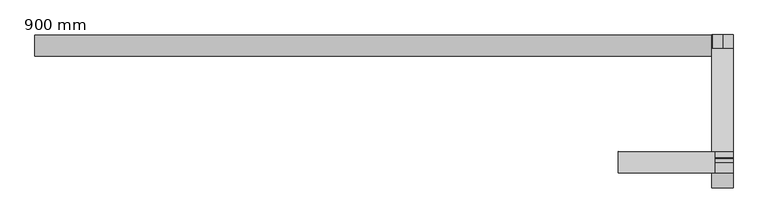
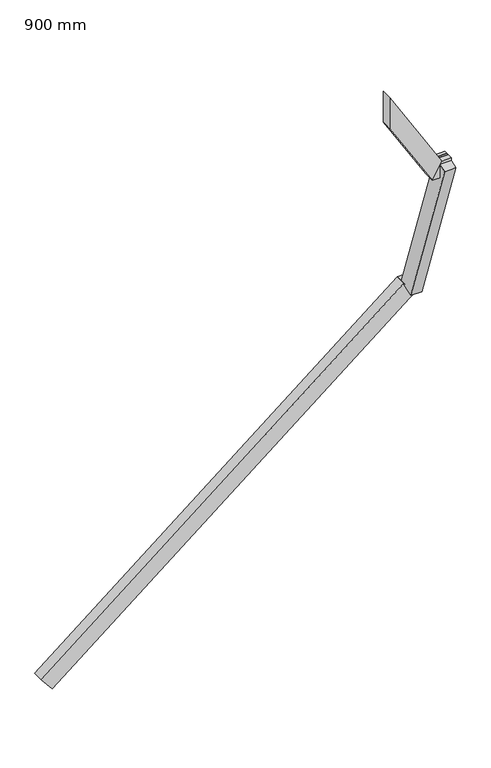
"""IFC4 building model written with IfcOpenShell, lengths in millimetres: railing geometry, 900 mm."""

from ifc_helpers import new_model, si_unit, origin, place, context, project, spatial, faceted_brep, source, transform, mapped, element, save


def railing_900_mm_8258545f(model_context):
    return source(origin(), model_context, "Body", "Brep", [
        faceted_brep([(-1180.0228675, -2082.4888028, 1057.5), (-1132.2055672, -2082.4888028, 998.1708689), (-1132.2055672, -2133.2888028, 998.1708689), (-1180.0228675, -2133.2888028, 1057.5), (445.6226895, -2082.4888028, 2367.7160807), (445.6226895, -2133.2888028, 2367.7160807), (493.4399897, -2133.2888028, 2308.3869496), (493.4399897, -2082.4888028, 2308.3869496)], [[[0, 1, 2, 3]], [[4, 5, 6, 7]], [[1, 0, 4, 7]], [[2, 1, 7, 6]], [[3, 2, 6, 5]], [[0, 3, 5, 4]]]),
        faceted_brep([(445.6226895, -2082.4888028, 2367.7160807), (445.6226895, -2082.4888028, 2291.5160807), (445.6226895, -2133.2888028, 2291.5160807), (445.6226895, -2133.2888028, 2367.7160807), (470.3771325, -2082.4888028, 2367.7160807), (470.3771325, -2133.2888028, 2367.7160807), (470.3771325, -2133.2888028, 2291.5160807), (470.3771325, -2082.4888028, 2291.5160807)], [[[0, 1, 2, 3]], [[4, 5, 6, 7]], [[1, 0, 4, 7]], [[2, 1, 7, 6]], [[3, 2, 6, 5]], [[0, 3, 5, 4]]]),
        faceted_brep([(495.7771325, -2082.4888028, 2367.7160807), (495.7771325, -2082.4888028, 2291.5160807), (444.9771325, -2082.4888028, 2291.5160807), (444.9771325, -2082.4888028, 2367.7160807), (495.7771325, -2114.9404347, 2367.7160807), (444.9771325, -2114.9404347, 2367.7160807), (444.9771325, -2114.9404347, 2291.5160807), (495.7771325, -2114.9404347, 2291.5160807)], [[[0, 1, 2, 3]], [[4, 5, 6, 7]], [[1, 0, 4, 7]], [[2, 1, 7, 6]], [[3, 2, 6, 5]], [[0, 3, 5, 4]]]),
        faceted_brep([(495.7771325, -2114.9404347, 2367.7160807), (495.7771325, -2186.7849753, 2342.3231292), (444.9771325, -2186.7849753, 2342.3231292), (444.9771325, -2114.9404347, 2367.7160807), (495.7771325, -2378.5414704, 3113.5252218), (444.9771325, -2378.5414704, 3113.5252218), (444.9771325, -2450.386011, 3088.1322704), (495.7771325, -2450.386011, 3088.1322704)], [[[0, 1, 2, 3]], [[4, 5, 6, 7]], [[1, 0, 4, 7]], [[2, 1, 7, 6]], [[3, 2, 6, 5]], [[0, 3, 5, 4]]]),
        faceted_brep([(495.7771325, -2378.5414704, 3113.5252218), (495.7771325, -2378.5414704, 3037.3252218), (444.9771325, -2378.5414704, 3037.3252218), (444.9771325, -2378.5414704, 3113.5252218), (495.7771325, -2388.8717953, 3113.5252218), (444.9771325, -2388.8717953, 3113.5252218), (444.9771325, -2388.8717953, 3037.3252218), (495.7771325, -2388.8717953, 3037.3252218)], [[[0, 1, 2, 3]], [[4, 5, 6, 7]], [[1, 0, 4, 7]], [[2, 1, 7, 6]], [[3, 2, 6, 5]], [[0, 3, 5, 4]]]),
        faceted_brep([(495.7771325, -2414.2717953, 3113.5252218), (495.7771325, -2414.2717953, 3037.3252218), (495.7771325, -2363.4717953, 3037.3252218), (495.7771325, -2363.4717953, 3113.5252218), (452.5573837, -2414.2717953, 3113.5252218), (409.7698106, -2414.2717953, 3037.3252218), (409.7698106, -2363.4717953, 3037.3252218), (452.5573837, -2363.4717953, 3113.5252218), (219.9771325, -2414.2717953, 3495.0), (219.9771325, -2363.4717953, 3495.0), (219.9771325, -2363.4717953, 3348.6204388), (219.9771325, -2414.2717953, 3348.6204388)], [[[0, 1, 2, 3]], [[1, 0, 4, 5]], [[2, 1, 5, 6]], [[3, 2, 6, 7]], [[0, 3, 7, 4]], [[8, 9, 10, 11]], [[5, 4, 8, 11]], [[6, 5, 11, 10]], [[7, 6, 10, 9]], [[4, 7, 9, 8]]]),
    ])


if __name__ == "__main__":
    model = new_model("IFC4")
    model_context = context("Model", 3, world=origin())
    ifc_project = project(units=[si_unit("LENGTHUNIT", "METRE", prefix="MILLI")], contexts=[model_context])
    site = spatial("IfcSite", under=ifc_project)
    building = spatial("IfcBuilding", under=site)
    placement = place(None, origin())
    railing_900_mm_shape = railing_900_mm_8258545f(model_context)
    element("IfcRailing", 1, ObjectType="900 mm", at=placement, inside=building, context=model_context, shape_type="MappedRepresentation", body=[
        mapped(railing_900_mm_shape, transform((0.0, 0.0, 0.0), x_axis=(1.0, 0.0, 0.0), y_axis=(0.0, 1.0, 0.0), z_axis=(0.0, 0.0, 1.0))),
    ])
    save(model, "model.ifc")
